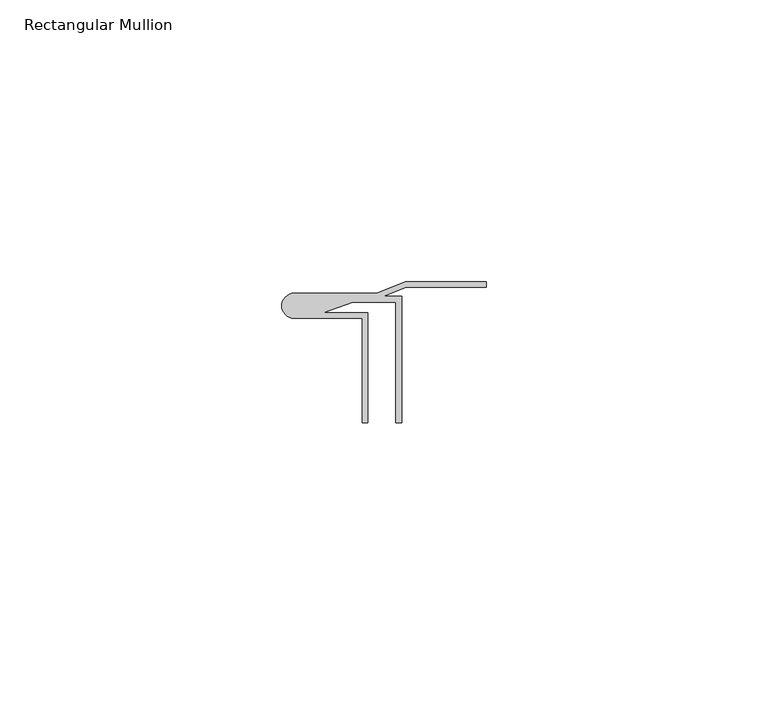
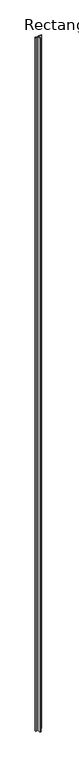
"""IFC4 building model written with IfcOpenShell, lengths in millimetres: member geometry, Rectangular Mullion : Stratco_Hiland_Interlock_Concealed Fix 5mm Gap_Intermediate."""

from ifc_helpers import new_model, si_unit, point, frame, frame_2d, origin, place, context, project, spatial, polyline, circle_curve, trimmed, segment, composite_curve, outline, extrude, source, transform, mapped, element, save


def rectangular_mullion_8651af97(model_context):
    return source(origin(), model_context, "Body", "SweptSolid", [
        extrude(outline(composite_curve([segment(polyline([(0.0, -3.6), (-7.6381457, -3.6), (-12.8583528, -5.5), (-5.0, -5.5), (-5.0, -25.0), (-6.0, -25.0), (-6.0, -6.5), (-18.0, -6.5)]), True, "CONTINUOUS"), segment(trimmed(circle_curve(frame_2d((-18.0, -4.25)), 2.25), [point((-18.0, -6.5))], [point((-18.0, -2.0))], False, "CARTESIAN"), True, "CONTINUOUS"), segment(polyline([(-18.0, -2.0), (-3.3843316, -2.0), (1.6398573, 0.0), (16.0, 0.0), (16.0, -1.0), (1.8315784, -1.0), (-2.1877727, -2.6), (1.0, -2.6), (1.0, -25.0), (0.0, -25.0), (0.0, -3.6)]), True, "CONTINUOUS")], self_intersect=False)), frame((0.0, 0.0, -4000.0), z_axis=(0.0, 0.0, 1.0), x_axis=(1.0, 0.0, 0.0)), (0.0, 0.0, 1.0), 4000.0),
    ])


if __name__ == "__main__":
    model = new_model("IFC4")
    model_context = context("Model", 3, world=origin())
    ifc_project = project(units=[si_unit("LENGTHUNIT", "METRE", prefix="MILLI")], contexts=[model_context])
    site = spatial("IfcSite", under=ifc_project)
    building = spatial("IfcBuilding", under=site)
    placement = place(None, origin())
    rectangular_mullion_shape = rectangular_mullion_8651af97(model_context)
    element("IfcMember", 1, ObjectType="Rectangular Mullion : Stratco_Hiland_Interlock_Concealed Fix 5mm Gap_Intermediate", at=placement, inside=building, context=model_context, shape_type="MappedRepresentation", body=[
        mapped(rectangular_mullion_shape, transform((0.0, 0.0, 0.0), x_axis=(1.0, 0.0, 0.0), y_axis=(0.0, 1.0, 0.0), z_axis=(0.0, 0.0, 1.0))),
    ])
    save(model, "model.ifc")
